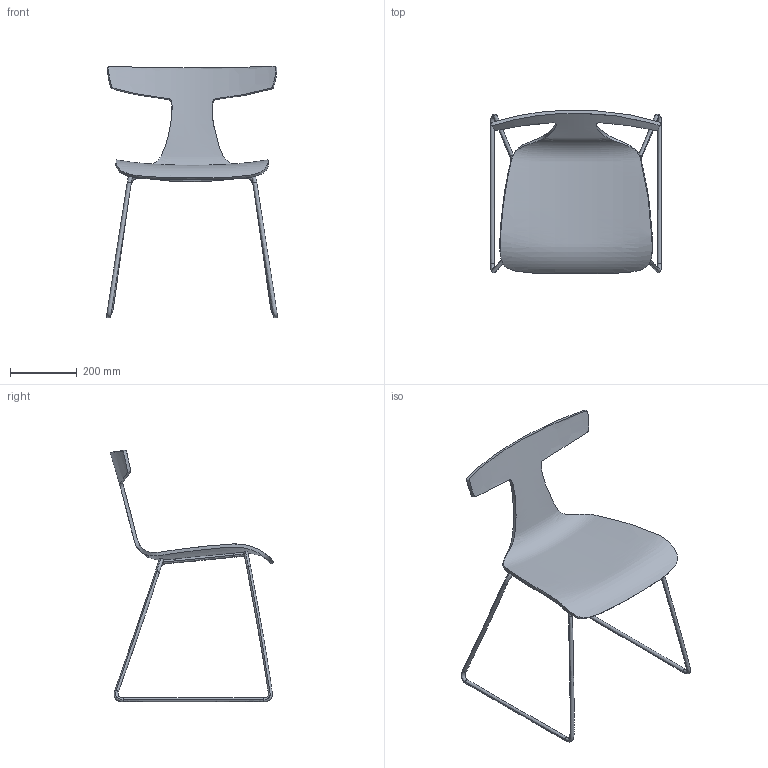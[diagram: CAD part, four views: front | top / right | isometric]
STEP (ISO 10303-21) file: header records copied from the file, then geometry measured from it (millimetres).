
FILE_DESCRIPTION(/* description */ (''),/* implementation_level */ '2;1');
FILE_NAME(/* name */ 'Karen Pata Patin',/* time_stamp */ '2019-06-17T17:38:06+02:00',/* author */ (''),/* organization */ (''),/* preprocessor_version */ 'ST-DEVELOPER v16.5',/* originating_system */ '',/* authorisation */ '');
FILE_SCHEMA (('AUTOMOTIVE_DESIGN'));
Length unit declared in the file: millimetre
Products named in the file (1): Document
Bounding box: 513.47 x 489.06 x 752.57 mm (x, y, z)
Volume: 2897855.4 mm3; surface area: 667948.1 mm2
Topology: 4 solids, 4 shells, 48 faces, 110 edges, 76 vertices
Faces by surface type: bspline 48
Entity records: 27223 total; most frequent: CARTESIAN_POINT 26555, ORIENTED_EDGE 220, EDGE_CURVE 110, VERTEX_POINT 68, EDGE_LOOP 56, B_SPLINE_CURVE_WITH_KNOTS 54, ADVANCED_FACE 48, FACE_OUTER_BOUND 48
